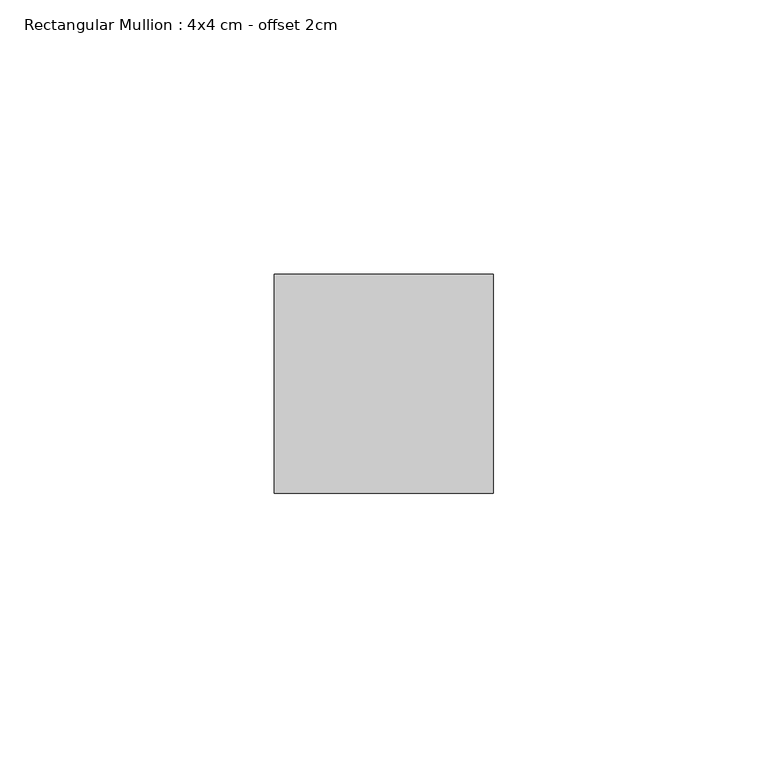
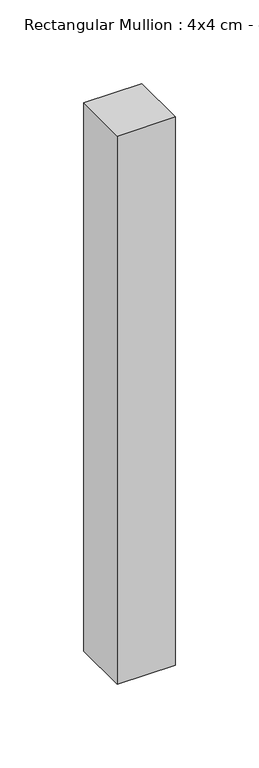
"""IFC4 building model written with IfcOpenShell, lengths in millimetres: member geometry, Rectangular Mullion : 4x4 cm - offset 2cm."""

from ifc_helpers import new_model, si_unit, frame, origin, place, context, project, spatial, polyline, outline, extrude, source, transform, mapped, element, save


def rectangular_mullion_4x4_cm_offset_2cm_4f439c76(model_context):
    return source(origin(), model_context, "Body", "SweptSolid", [
        extrude(outline(polyline([(0.0, 40.0), (0.0, 0.0), (-40.0, 0.0), (-40.0, 40.0), (0.0, 40.0)])), frame((0.0, 0.0, -399.9999997), z_axis=(0.0, 0.0, 1.0), x_axis=(1.0, 0.0, 0.0)), (0.0, 0.0, 1.0), 399.9999997),
    ])


if __name__ == "__main__":
    model = new_model("IFC4")
    model_context = context("Model", 3, world=origin())
    ifc_project = project(units=[si_unit("LENGTHUNIT", "METRE", prefix="MILLI")], contexts=[model_context])
    site = spatial("IfcSite", under=ifc_project)
    building = spatial("IfcBuilding", under=site)
    placement = place(None, origin())
    rectangular_mullion_4x4_cm_offset_2cm_shape = rectangular_mullion_4x4_cm_offset_2cm_4f439c76(model_context)
    element("IfcMember", 1, ObjectType="Rectangular Mullion : 4x4 cm - offset 2cm", at=placement, inside=building, context=model_context, shape_type="MappedRepresentation", body=[
        mapped(rectangular_mullion_4x4_cm_offset_2cm_shape, transform((0.0, 0.0, 0.0), x_axis=(1.0, 0.0, 0.0), y_axis=(0.0, 1.0, 0.0), z_axis=(0.0, 0.0, 1.0))),
    ])
    save(model, "model.ifc")
